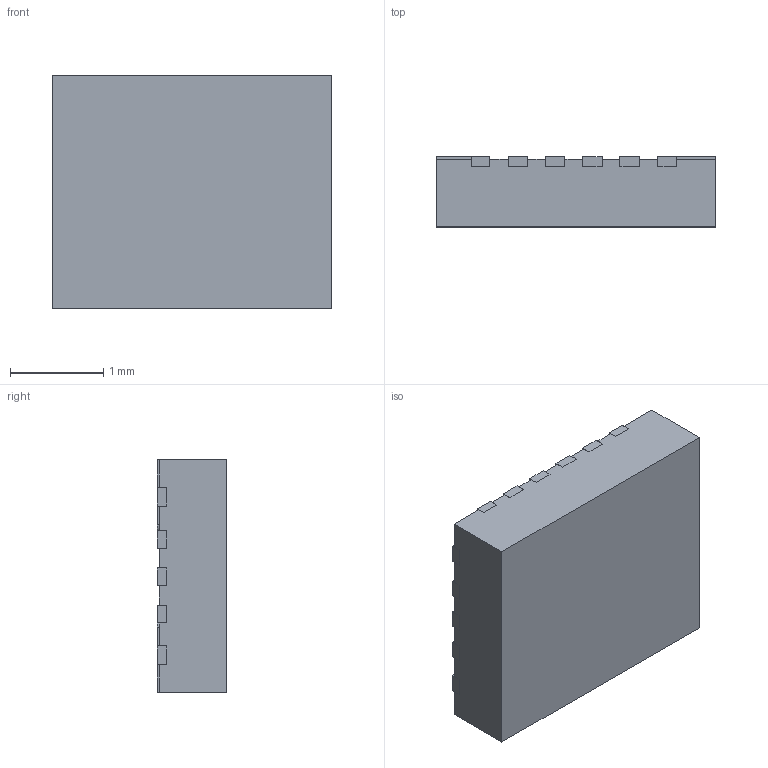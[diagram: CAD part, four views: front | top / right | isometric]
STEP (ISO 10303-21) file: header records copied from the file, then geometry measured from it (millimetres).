
FILE_DESCRIPTION (( 'STEP AP214' ), '1' );
FILE_NAME ('BQ25629RYKR.STEP', '2023-10-07T19:58:55', ( '' ), ( '' ), 'SwSTEP 2.0', 'SolidWorks 2021', '' );
FILE_SCHEMA (( 'AUTOMOTIVE_DESIGN' ));
Length unit declared in the file: millimetre
Products named in the file (1): BQ25629RYKR
Bounding box: 3 x 0.75 x 2.5 mm (x, y, z)
Volume: 5.5 mm3; surface area: 31.8 mm2
Topology: 19 solids, 19 shells, 212 faces, 522 edges, 348 vertices
Faces by surface type: plane 176, cylinder 36
Entity records: 7835 total; most frequent: CARTESIAN_POINT 1083, ORIENTED_EDGE 1044, DIRECTION 1020, EDGE_CURVE 522, VECTOR 450, LINE 450, VERTEX_POINT 348, AXIS2_PLACEMENT_3D 285
